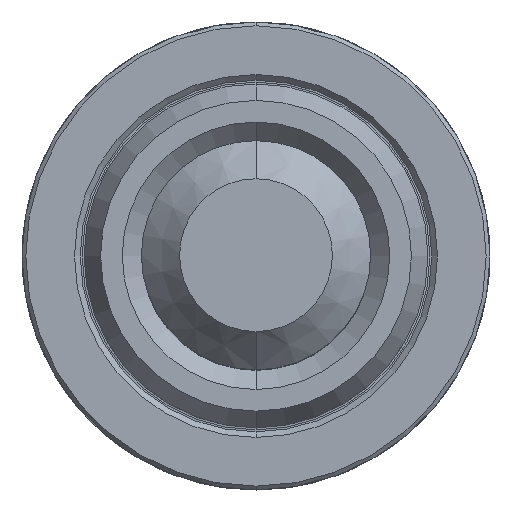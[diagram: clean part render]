
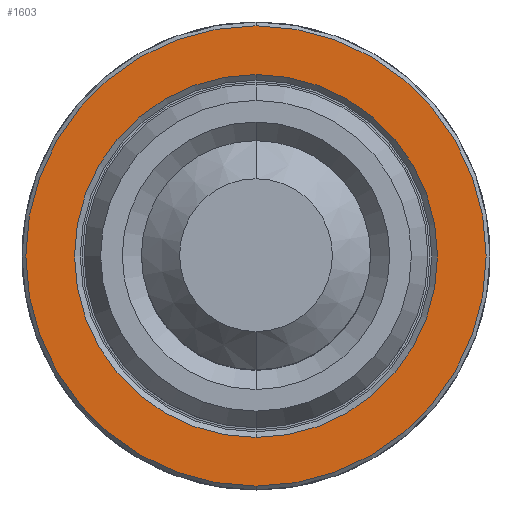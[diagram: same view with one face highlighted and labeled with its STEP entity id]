
A CAD part, top view. The second image highlights one B-rep face of the part: STEP entity #1603.
In plain terms, the highlighted planar face has unit normal (0, 0, 1).
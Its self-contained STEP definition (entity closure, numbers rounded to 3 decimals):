
#9 = CARTESIAN_POINT ( 'NONE',  ( 0., 0., 0. ) ) ;
#102 = AXIS2_PLACEMENT_3D ( 'NONE', #1677, #1513, #356 ) ;
#193 = CIRCLE ( 'NONE', #471, 12.05 ) ;
#218 = CARTESIAN_POINT ( 'NONE',  ( 0., 0., 0. ) ) ;
#236 = PLANE ( 'NONE',  #1140 ) ;
#244 = EDGE_CURVE ( 'NONE', #733, #358, #2024, .T. ) ;
#356 = DIRECTION ( 'NONE',  ( 0., -1., 0. ) ) ;
#358 = VERTEX_POINT ( 'NONE', #1772 ) ;
#435 = FACE_OUTER_BOUND ( 'NONE', #1765, .T. ) ;
#471 = AXIS2_PLACEMENT_3D ( 'NONE', #691, #1027, #1859 ) ;
#484 = AXIS2_PLACEMENT_3D ( 'NONE', #9, #1023, #1651 ) ;
#569 = CARTESIAN_POINT ( 'NONE',  ( 9., 0., 0. ) ) ;
#602 = DIRECTION ( 'NONE',  ( 0., 0., 1. ) ) ;
#691 = CARTESIAN_POINT ( 'NONE',  ( 0., 0., 0. ) ) ;
#695 = AXIS2_PLACEMENT_3D ( 'NONE', #218, #1207, #1560 ) ;
#733 = VERTEX_POINT ( 'NONE', #1275 ) ;
#766 = FACE_BOUND ( 'NONE', #1709, .T. ) ;
#848 = VERTEX_POINT ( 'NONE', #1319 ) ;
#887 = CARTESIAN_POINT ( 'NONE',  ( 0., -9.5, 0. ) ) ;
#962 = EDGE_CURVE ( 'NONE', #848, #1061, #1232, .T. ) ;
#1005 = ORIENTED_EDGE ( 'NONE', *, *, #962, .T. ) ;
#1023 = DIRECTION ( 'NONE',  ( 0., 0., -1. ) ) ;
#1027 = DIRECTION ( 'NONE',  ( 0., 0., 1. ) ) ;
#1061 = VERTEX_POINT ( 'NONE', #887 ) ;
#1084 = CIRCLE ( 'NONE', #695, 9.5 ) ;
#1140 = AXIS2_PLACEMENT_3D ( 'NONE', #569, #602, #1752 ) ;
#1207 = DIRECTION ( 'NONE',  ( 0., 0., -1. ) ) ;
#1232 = CIRCLE ( 'NONE', #484, 9.5 ) ;
#1252 = ORIENTED_EDGE ( 'NONE', *, *, #1409, .T. ) ;
#1275 = CARTESIAN_POINT ( 'NONE',  ( 0., -12.05, 0. ) ) ;
#1319 = CARTESIAN_POINT ( 'NONE',  ( 0., 9.5, 0. ) ) ;
#1409 = EDGE_CURVE ( 'NONE', #1061, #848, #1084, .T. ) ;
#1513 = DIRECTION ( 'NONE',  ( 0., 0., 1. ) ) ;
#1560 = DIRECTION ( 'NONE',  ( 0., 1., 0. ) ) ;
#1603 = ADVANCED_FACE ( 'NONE', ( #766, #435 ), #236, .T. ) ;
#1651 = DIRECTION ( 'NONE',  ( 0., 1., 0. ) ) ;
#1677 = CARTESIAN_POINT ( 'NONE',  ( 0., 0., 0. ) ) ;
#1709 = EDGE_LOOP ( 'NONE', ( #1252, #1005 ) ) ;
#1752 = DIRECTION ( 'NONE',  ( 0., -1., 0. ) ) ;
#1765 = EDGE_LOOP ( 'NONE', ( #1776, #1899 ) ) ;
#1772 = CARTESIAN_POINT ( 'NONE',  ( 0., 12.05, 0. ) ) ;
#1776 = ORIENTED_EDGE ( 'NONE', *, *, #1865, .T. ) ;
#1859 = DIRECTION ( 'NONE',  ( 0., -1., 0. ) ) ;
#1865 = EDGE_CURVE ( 'NONE', #358, #733, #193, .T. ) ;
#1899 = ORIENTED_EDGE ( 'NONE', *, *, #244, .T. ) ;
#2024 = CIRCLE ( 'NONE', #102, 12.05 ) ;
